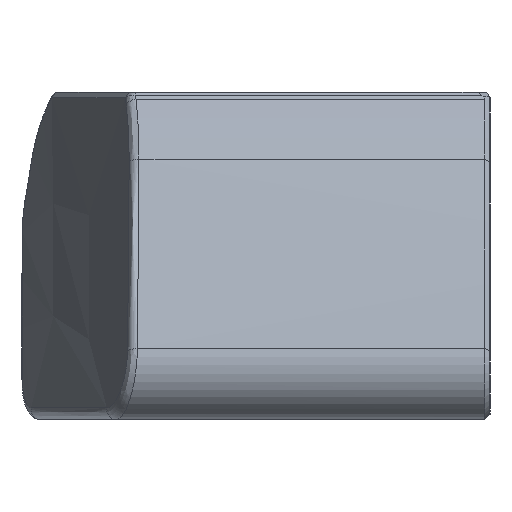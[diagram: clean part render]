
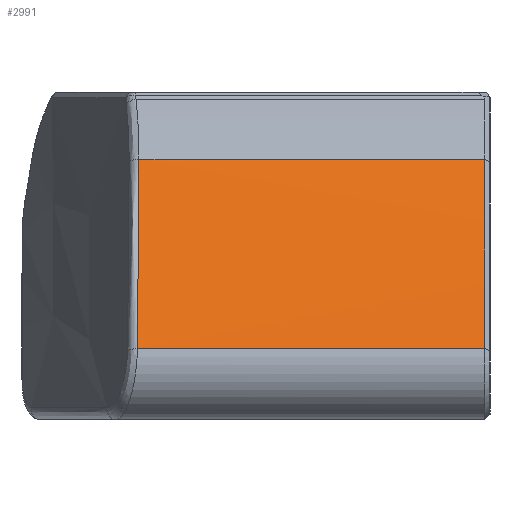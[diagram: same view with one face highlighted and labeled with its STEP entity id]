
A CAD part, left-side view. The second image highlights one B-rep face of the part: STEP entity #2991.
In plain terms, the highlighted cylindrical face has radius 118 mm (diameter 236 mm), a partial arc.
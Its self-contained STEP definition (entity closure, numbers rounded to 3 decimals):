
#632 = ORIENTED_EDGE ( 'NONE', *, *, #2051, .T. ) ;
#637 = EDGE_LOOP ( 'NONE', ( #632, #863, #918, #795 ) ) ;
#795 = ORIENTED_EDGE ( 'NONE', *, *, #2081, .T. ) ;
#863 = ORIENTED_EDGE ( 'NONE', *, *, #2083, .T. ) ;
#918 = ORIENTED_EDGE ( 'NONE', *, *, #2086, .T. ) ;
#2051 = EDGE_CURVE ( 'NONE', #2710, #2711, #6862, .T. ) ;
#2081 = EDGE_CURVE ( 'NONE', #2735, #2710, #3148, .T. ) ;
#2083 = EDGE_CURVE ( 'NONE', #2711, #2733, #3284, .T. ) ;
#2086 = EDGE_CURVE ( 'NONE', #2733, #2735, #6920, .T. ) ;
#2234 = AXIS2_PLACEMENT_3D ( 'NONE', #6947, #6937, #6936 ) ;
#2244 = VECTOR ( 'NONE', #6918, 1000. ) ;
#2245 = CYLINDRICAL_SURFACE ( 'NONE', #2249, 118. ) ;
#2249 = AXIS2_PLACEMENT_3D ( 'NONE', #4210, #4211, #4212 ) ;
#2287 = FACE_OUTER_BOUND ( 'NONE', #637, .T. ) ;
#2288 = VECTOR ( 'NONE', #6863, 1000. ) ;
#2710 = VERTEX_POINT ( 'NONE', #4569 ) ;
#2711 = VERTEX_POINT ( 'NONE', #4565 ) ;
#2733 = VERTEX_POINT ( 'NONE', #4547 ) ;
#2735 = VERTEX_POINT ( 'NONE', #4562 ) ;
#2991 = ADVANCED_FACE ( 'NONE', ( #2287 ), #2245, .T. ) ;
#3148 = CIRCLE ( 'NONE', #2234, 118. ) ;
#3284 = B_SPLINE_CURVE_WITH_KNOTS ( 'NONE', 3,
 ( #6931, #6930, #6929, #6928 ),
 .UNSPECIFIED., .F., .F.,
 ( 4, 4 ),
 ( 0., 0.016 ),
 .UNSPECIFIED. ) ;
#4210 = CARTESIAN_POINT ( 'NONE',  ( 0., -5., 0. ) ) ;
#4211 = DIRECTION ( 'NONE',  ( 0., 1., 0. ) ) ;
#4212 = DIRECTION ( 'NONE',  ( 0., 0., 1. ) ) ;
#4547 = CARTESIAN_POINT ( 'NONE',  ( -110.237, 21.931, 42.094 ) ) ;
#4562 = CARTESIAN_POINT ( 'NONE',  ( -110.237, -4.6, 42.094 ) ) ;
#4565 = CARTESIAN_POINT ( 'NONE',  ( -103.555, 21.814, 56.572 ) ) ;
#4569 = CARTESIAN_POINT ( 'NONE',  ( -103.555, -4.6, 56.572 ) ) ;
#6860 = CARTESIAN_POINT ( 'NONE',  ( -103.555, -5., 56.572 ) ) ;
#6862 = LINE ( 'NONE', #6860, #2288 ) ;
#6863 = DIRECTION ( 'NONE',  ( 0., 1., 0. ) ) ;
#6918 = DIRECTION ( 'NONE',  ( 0., -1., 0. ) ) ;
#6919 = CARTESIAN_POINT ( 'NONE',  ( -110.237, -5., 42.094 ) ) ;
#6920 = LINE ( 'NONE', #6919, #2244 ) ;
#6928 = CARTESIAN_POINT ( 'NONE',  ( -110.237, 21.931, 42.094 ) ) ;
#6929 = CARTESIAN_POINT ( 'NONE',  ( -108.336, 21.874, 47.07 ) ) ;
#6930 = CARTESIAN_POINT ( 'NONE',  ( -106.109, 21.835, 51.897 ) ) ;
#6931 = CARTESIAN_POINT ( 'NONE',  ( -103.555, 21.814, 56.572 ) ) ;
#6936 = DIRECTION ( 'NONE',  ( 0., 0., 1. ) ) ;
#6937 = DIRECTION ( 'NONE',  ( 0., 1., 0. ) ) ;
#6947 = CARTESIAN_POINT ( 'NONE',  ( 0., -4.6, 0. ) ) ;
